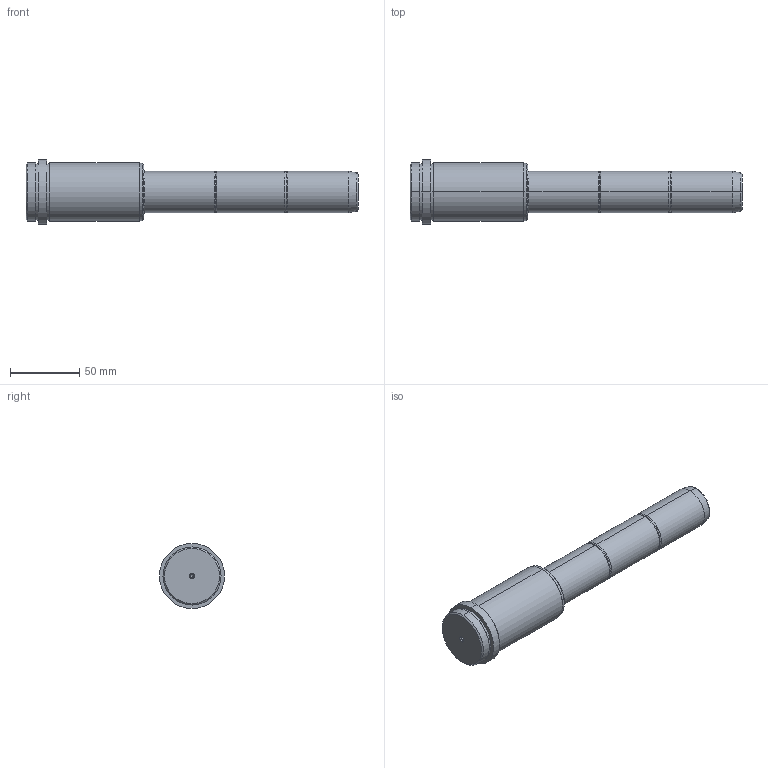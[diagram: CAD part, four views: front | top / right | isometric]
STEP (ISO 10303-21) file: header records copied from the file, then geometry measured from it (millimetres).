
FILE_DESCRIPTION( ( 'STEP AP203' ), '1' );
FILE_NAME( 'C:/Projects/D03 - 30x76x155.step', '2003-01-03T21:47:43', ( ' ' ), ( ' ' ), 'XStep 1.0', ' ', ' ' );
FILE_SCHEMA( ( 'CONFIG_CONTROL_DESIGN' ) );
Length unit declared in the file: metre
Products named in the file (1): 1
Bounding box: 240 x 47 x 47 mm (x, y, z)
Volume: 228458.5 mm3; surface area: 29377.3 mm2
Topology: 1 solids, 1 shells, 56 faces, 112 edges, 64 vertices
Faces by surface type: revolution 36, bspline 20
Entity records: 1691 total; most frequent: CARTESIAN_POINT 513, ORIENTED_EDGE 220, DIRECTION 218, EDGE_CURVE 110, AXIS2_PLACEMENT_3D 73, CIRCLE 72, EDGE_LOOP 64, VERTEX_POINT 64
